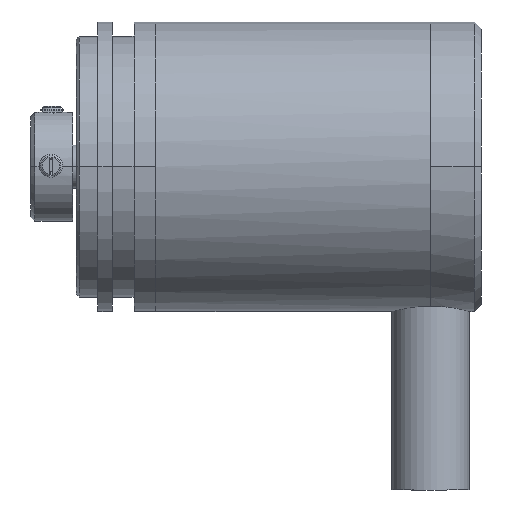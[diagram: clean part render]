
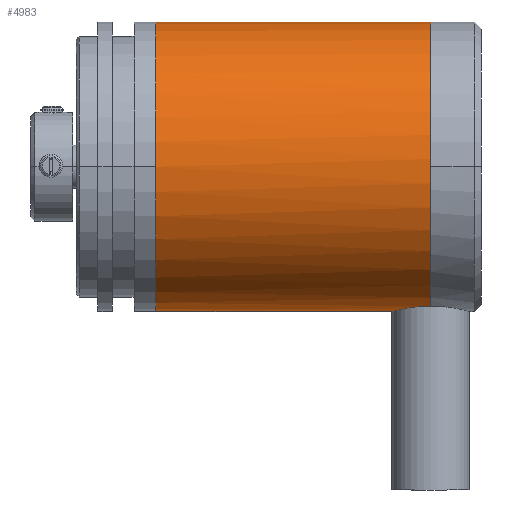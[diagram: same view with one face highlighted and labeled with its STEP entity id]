
A CAD part, front view. The second image highlights one B-rep face of the part: STEP entity #4983.
In plain terms, the highlighted cylindrical face has radius 10 mm (diameter 20 mm), a partial arc.
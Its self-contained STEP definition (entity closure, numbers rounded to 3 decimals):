
#4 = CARTESIAN_POINT ( 'NONE',  ( 33.202, 8.671, 2.689 ) ) ;
#50 = CARTESIAN_POINT ( 'NONE',  ( 14.202, 11.371, 12.318 ) ) ;
#76 = CARTESIAN_POINT ( 'NONE',  ( 30.641, 10.498, 2.355 ) ) ;
#573 = DIRECTION ( 'NONE',  ( 0., 0., 1. ) ) ;
#599 = CARTESIAN_POINT ( 'NONE',  ( 30.519, 11.019, 2.323 ) ) ;
#1098 = ORIENTED_EDGE ( 'NONE', *, *, #6119, .T. ) ;
#1103 = CARTESIAN_POINT ( 'NONE',  ( 30.502, 11.371, 2.318 ) ) ;
#1106 = ORIENTED_EDGE ( 'NONE', *, *, #6109, .T. ) ;
#1128 = AXIS2_PLACEMENT_3D ( 'NONE', #7379, #3259, #7889 ) ;
#1129 = AXIS2_PLACEMENT_3D ( 'NONE', #50, #4532, #573 ) ;
#1174 = ORIENTED_EDGE ( 'NONE', *, *, #6120, .F. ) ;
#1185 = ORIENTED_EDGE ( 'NONE', *, *, #6121, .F. ) ;
#1198 = ORIENTED_EDGE ( 'NONE', *, *, #6133, .F. ) ;
#1253 = CARTESIAN_POINT ( 'NONE',  ( 32.846, 8.689, 2.684 ) ) ;
#1285 = CARTESIAN_POINT ( 'NONE',  ( 30.502, 11.371, 2.318 ) ) ;
#1514 = CARTESIAN_POINT ( 'NONE',  ( 33.202, 11.371, 12.318 ) ) ;
#1665 = CARTESIAN_POINT ( 'NONE',  ( 33.202, 11.371, 22.318 ) ) ;
#1857 = CARTESIAN_POINT ( 'NONE',  ( 32.328, 8.811, 2.651 ) ) ;
#1883 = CARTESIAN_POINT ( 'NONE',  ( 33.202, 11.371, 22.318 ) ) ;
#1891 = VERTEX_POINT ( 'NONE', #1665 ) ;
#2088 = CYLINDRICAL_SURFACE ( 'NONE', #3065, 10. ) ;
#2136 = DIRECTION ( 'NONE',  ( 1., 0., 0. ) ) ;
#2538 = CARTESIAN_POINT ( 'NONE',  ( 31.846, 9.03, 2.596 ) ) ;
#2571 = DIRECTION ( 'NONE',  ( 1., 0., 0. ) ) ;
#3065 = AXIS2_PLACEMENT_3D ( 'NONE', #1514, #2136, #4879 ) ;
#3226 = CARTESIAN_POINT ( 'NONE',  ( 31.415, 9.339, 2.526 ) ) ;
#3259 = DIRECTION ( 'NONE',  ( 1., 0., 0. ) ) ;
#3829 = DIRECTION ( 'NONE',  ( 1., 0., 0. ) ) ;
#3855 = CARTESIAN_POINT ( 'NONE',  ( 33.022, 8.671, 2.689 ) ) ;
#3886 = CARTESIAN_POINT ( 'NONE',  ( 30.843, 10.011, 2.406 ) ) ;
#4532 = DIRECTION ( 'NONE',  ( 1., 0., 0. ) ) ;
#4571 = CARTESIAN_POINT ( 'NONE',  ( 30.588, 10.669, 2.341 ) ) ;
#4678 = VERTEX_POINT ( 'NONE', #7311 ) ;
#4735 = VERTEX_POINT ( 'NONE', #7795 ) ;
#4744 = VERTEX_POINT ( 'NONE', #4 ) ;
#4788 = VERTEX_POINT ( 'NONE', #1103 ) ;
#4861 = B_SPLINE_CURVE_WITH_KNOTS ( 'NONE', 3,
 ( #7838, #3855, #1253, #6038, #1857, #6766, #2538, #7354, #3226, #7869, #3886, #76, #4571, #599, #5320, #1285 ),
 .UNSPECIFIED., .F., .F.,
 ( 4, 2, 2, 2, 2, 2, 2, 4 ),
 ( 0., 0.001, 0.001, 0.002, 0.002, 0.003, 0.004, 0.004 ),
 .UNSPECIFIED. ) ;
#4879 = DIRECTION ( 'NONE',  ( 0., 0., 1. ) ) ;
#4983 = ADVANCED_FACE ( 'NONE', ( #7812 ), #2088, .T. ) ;
#5320 = CARTESIAN_POINT ( 'NONE',  ( 30.502, 11.194, 2.318 ) ) ;
#6038 = CARTESIAN_POINT ( 'NONE',  ( 32.5, 8.758, 2.665 ) ) ;
#6109 = EDGE_CURVE ( 'NONE', #4678, #4788, #7840, .T. ) ;
#6119 = EDGE_CURVE ( 'NONE', #4735, #4678, #7907, .T. ) ;
#6120 = EDGE_CURVE ( 'NONE', #4744, #4788, #4861, .T. ) ;
#6121 = EDGE_CURVE ( 'NONE', #1891, #4744, #7774, .T. ) ;
#6133 = EDGE_CURVE ( 'NONE', #4735, #1891, #7834, .T. ) ;
#6766 = CARTESIAN_POINT ( 'NONE',  ( 32.001, 8.947, 2.616 ) ) ;
#7149 = EDGE_LOOP ( 'NONE', ( #1098, #1106, #1174, #1185, #1198 ) ) ;
#7311 = CARTESIAN_POINT ( 'NONE',  ( 14.202, 11.371, 2.318 ) ) ;
#7354 = CARTESIAN_POINT ( 'NONE',  ( 31.553, 9.226, 2.55 ) ) ;
#7379 = CARTESIAN_POINT ( 'NONE',  ( 33.202, 11.371, 12.318 ) ) ;
#7768 = VECTOR ( 'NONE', #2571, 1000. ) ;
#7774 = CIRCLE ( 'NONE', #1128, 10. ) ;
#7795 = CARTESIAN_POINT ( 'NONE',  ( 14.202, 11.371, 22.318 ) ) ;
#7812 = FACE_OUTER_BOUND ( 'NONE', #7149, .T. ) ;
#7816 = CARTESIAN_POINT ( 'NONE',  ( 33.202, 11.371, 2.318 ) ) ;
#7827 = VECTOR ( 'NONE', #3829, 1000. ) ;
#7834 = LINE ( 'NONE', #1883, #7768 ) ;
#7838 = CARTESIAN_POINT ( 'NONE',  ( 33.202, 8.671, 2.689 ) ) ;
#7840 = LINE ( 'NONE', #7816, #7827 ) ;
#7869 = CARTESIAN_POINT ( 'NONE',  ( 31.044, 9.711, 2.454 ) ) ;
#7889 = DIRECTION ( 'NONE',  ( 0., 0., 1. ) ) ;
#7907 = CIRCLE ( 'NONE', #1129, 10. ) ;
